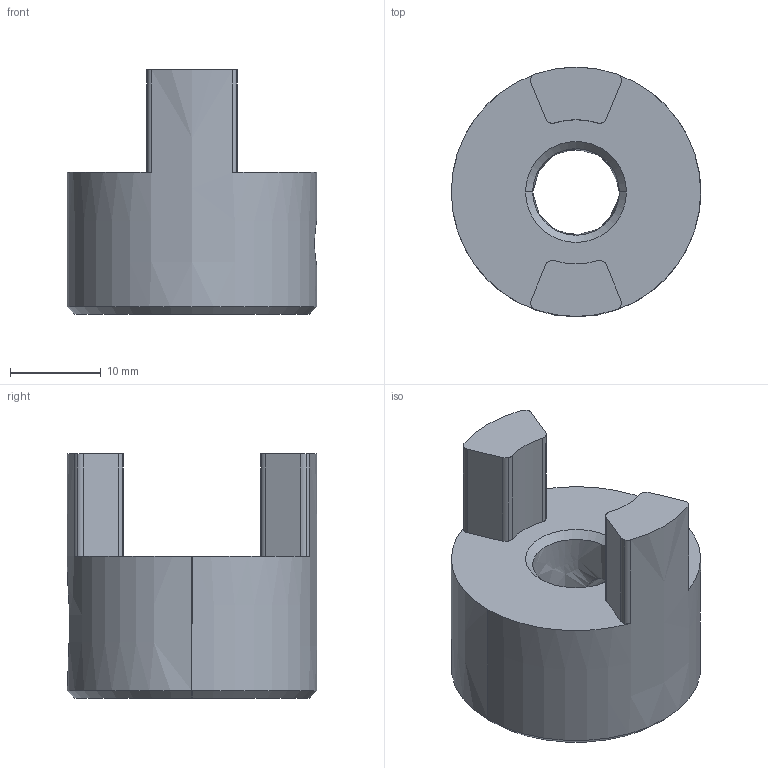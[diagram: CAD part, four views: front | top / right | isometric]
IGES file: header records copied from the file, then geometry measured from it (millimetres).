
Global section: file name: C:\Documents and Settings\Administrator\Desktop\Transfer Temp\lovejoy_l-050-0375.igs; native system: AutoDesk Inventor R2.0 ; preprocessor: AutoDesk Inventor Iges Exporter R2.0; author: No Author specified; organization: No Organization specified; date: 20011226.205658; units: inch
Bounding box: 27.43 x 27.43 x 26.85 mm (x, y, z)
Surface area: 3500.1 mm2 (no closed solid volume)
Topology: 0 solids, 0 shells, 38 faces, 216 edges, 216 vertices
Faces by surface type: revolution 26, bspline 12
